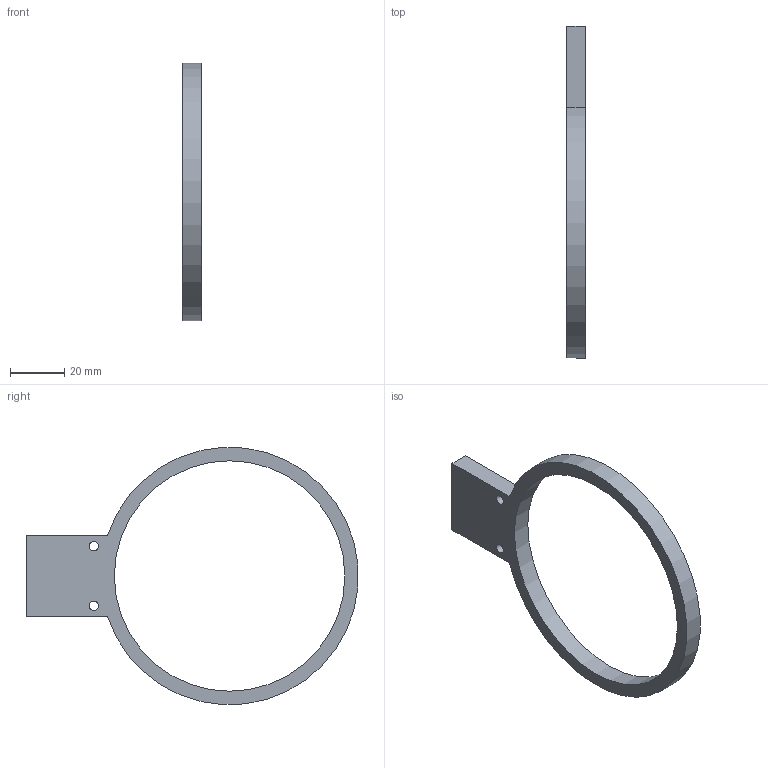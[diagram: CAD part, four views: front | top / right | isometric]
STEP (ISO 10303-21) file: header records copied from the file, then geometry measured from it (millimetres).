
FILE_DESCRIPTION(/* description */ (''),/* implementation_level */ '2;1');
FILE_NAME(/* name */ 'kolko_3_2.step',/* time_stamp */ '2026-04-10T14:36:15+02:00',/* author */ (''),/* organization */ (''),/* preprocessor_version */ 'ST-DEVELOPER v20.1',/* originating_system */ 'Autodesk Translation Framework v14.24.0.0',/* authorisation */ '');
FILE_SCHEMA (('AUTOMOTIVE_DESIGN { 1 0 10303 214 3 1 1 }'));
Length unit declared in the file: millimetre
Products named in the file (1): kolko_3_2
Bounding box: 7 x 122.4 x 94.87 mm (x, y, z)
Volume: 14927.6 mm3; surface area: 9167.5 mm2
Topology: 1 solids, 1 shells, 13 faces, 33 edges, 22 vertices
Faces by surface type: cylinder 6, plane 6, torus 1
Full cylindrical faces by diameter (mm): 3.5 x2, 85 x1
Entity records: 435 total; most frequent: DIRECTION 75, CARTESIAN_POINT 69, ORIENTED_EDGE 66, EDGE_CURVE 33, AXIS2_PLACEMENT_3D 28, VERTEX_POINT 22, EDGE_LOOP 19, LINE 19
